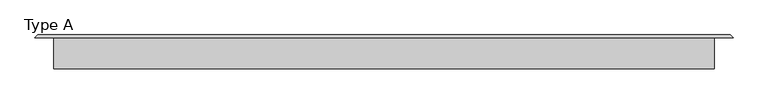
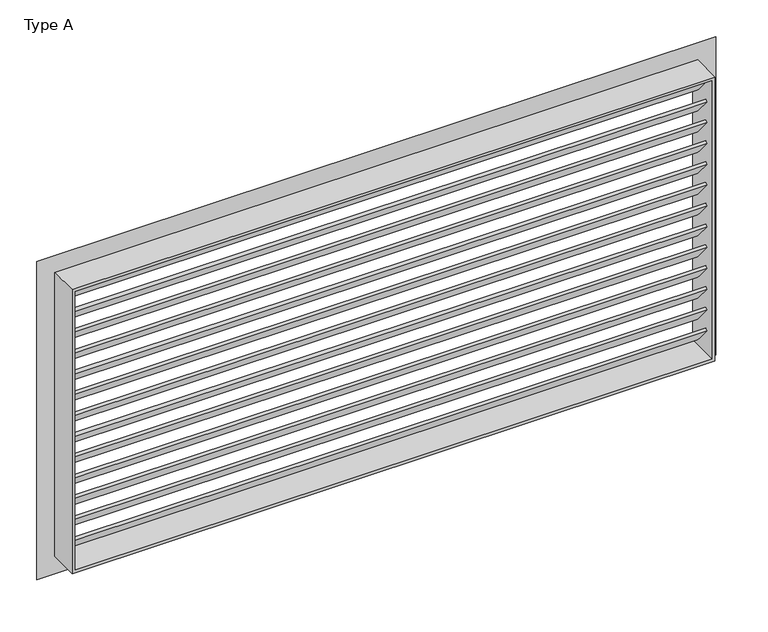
"""IFC4 building model written with IfcOpenShell, lengths in millimetres: proxy geometry, Grille d'aération - Mur : Type A."""

from ifc_helpers import new_model, si_unit, frame, origin, place, context, project, spatial, polyline, outline, extrude, faceted_brep, source, transform, mapped, element, save


def type_a_962f2aec(model_context):
    return source(origin(), model_context, "Body", "SolidModel", [
        extrude(outline(polyline([(0.0, -5.0), (0.0, 0.0), (1060.0, 0.0), (1060.0, -5.0), (0.0, -5.0)])), frame((655.0, 10.0, 2221.6666667), z_axis=(0.0, -0.6427876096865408, 0.7660444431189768), x_axis=(-1.0, 0.0, 0.0)), (0.0, 0.0, 1.0), 40.0),
        extrude(outline(polyline([(0.0, -5.0), (0.0, 0.0), (1060.0, 0.0), (1060.0, -5.0), (0.0, -5.0)])), frame((655.0, 10.0, 2258.3333333), z_axis=(0.0, -0.6427876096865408, 0.7660444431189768), x_axis=(-1.0, 0.0, 0.0)), (0.0, 0.0, 1.0), 40.0),
        extrude(outline(polyline([(0.0, -5.0), (0.0, 0.0), (1060.0, 0.0), (1060.0, -5.0), (0.0, -5.0)])), frame((655.0, 10.0, 2295.0), z_axis=(0.0, -0.6427876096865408, 0.7660444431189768), x_axis=(-1.0, 0.0, 0.0)), (0.0, 0.0, 1.0), 40.0),
        extrude(outline(polyline([(0.0, -5.0), (0.0, 0.0), (1060.0, 0.0), (1060.0, -5.0), (0.0, -5.0)])), frame((655.0, 10.0, 2331.6666667), z_axis=(0.0, -0.6427876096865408, 0.7660444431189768), x_axis=(-1.0, 0.0, 0.0)), (0.0, 0.0, 1.0), 40.0),
        extrude(outline(polyline([(0.0, -5.0), (0.0, 0.0), (1060.0, 0.0), (1060.0, -5.0), (0.0, -5.0)])), frame((655.0, 10.0, 2368.3333333), z_axis=(0.0, -0.6427876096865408, 0.7660444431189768), x_axis=(-1.0, 0.0, 0.0)), (0.0, 0.0, 1.0), 40.0),
        extrude(outline(polyline([(0.0, -5.0), (0.0, 0.0), (1060.0, 0.0), (1060.0, -5.0), (0.0, -5.0)])), frame((655.0, 10.0, 2405.0), z_axis=(0.0, -0.6427876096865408, 0.7660444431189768), x_axis=(-1.0, 0.0, 0.0)), (0.0, 0.0, 1.0), 40.0),
        extrude(outline(polyline([(0.0, -5.0), (0.0, 0.0), (1060.0, 0.0), (1060.0, -5.0), (0.0, -5.0)])), frame((655.0, 10.0, 2441.6666667), z_axis=(0.0, -0.6427876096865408, 0.7660444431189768), x_axis=(-1.0, 0.0, 0.0)), (0.0, 0.0, 1.0), 40.0),
        extrude(outline(polyline([(0.0, -5.0), (0.0, 0.0), (1060.0, 0.0), (1060.0, -5.0), (0.0, -5.0)])), frame((655.0, 10.0, 2478.3333333), z_axis=(0.0, -0.6427876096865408, 0.7660444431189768), x_axis=(-1.0, 0.0, 0.0)), (0.0, 0.0, 1.0), 40.0),
        extrude(outline(polyline([(0.0, -5.0), (0.0, 0.0), (1060.0, 0.0), (1060.0, -5.0), (0.0, -5.0)])), frame((655.0, 10.0, 2515.0), z_axis=(0.0, -0.6427876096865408, 0.7660444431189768), x_axis=(-1.0, 0.0, 0.0)), (0.0, 0.0, 1.0), 40.0),
        extrude(outline(polyline([(0.0, -5.0), (0.0, 0.0), (1060.0, 0.0), (1060.0, -5.0), (0.0, -5.0)])), frame((655.0, 10.0, 2551.6666667), z_axis=(0.0, -0.6427876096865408, 0.7660444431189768), x_axis=(-1.0, 0.0, 0.0)), (0.0, 0.0, 1.0), 40.0),
        extrude(outline(polyline([(0.0, -5.0), (0.0, 0.0), (1060.0, 0.0), (1060.0, -5.0), (0.0, -5.0)])), frame((655.0, 10.0, 2588.3333333), z_axis=(0.0, -0.6427876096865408, 0.7660444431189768), x_axis=(-1.0, 0.0, 0.0)), (0.0, 0.0, 1.0), 40.0),
        extrude(outline(polyline([(0.0, -5.0), (0.0, 0.0), (1060.0, 0.0), (1060.0, -5.0), (0.0, -5.0)])), frame((655.0, 10.0, 2185.0), z_axis=(0.0, -0.6427876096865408, 0.7660444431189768), x_axis=(-1.0, 0.0, 0.0)), (0.0, 0.0, 1.0), 40.0),
        extrude(outline(polyline([(0.0, -5.0), (0.0, 0.0), (1060.0, 0.0), (1060.0, -5.0), (0.0, -5.0)])), frame((655.0, 10.0, 2625.0), z_axis=(0.0, -0.6427876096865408, 0.7660444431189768), x_axis=(-1.0, 0.0, 0.0)), (0.0, 0.0, 1.0), 40.0),
        faceted_brep([(-410.0, -30.0, 2670.0), (-410.0, 20.0, 2670.0), (-410.0, 20.0, 2170.0), (-410.0, -30.0, 2170.0), (-405.0, 25.0, 2665.0), (-405.0, -30.0, 2665.0), (-405.0, -30.0, 2175.0), (-405.0, 25.0, 2175.0), (-440.284753, 20.0, 2700.284753), (-435.284753, 25.0, 2695.284753), (-435.284753, 25.0, 2144.715247), (-440.284753, 20.0, 2139.715247), (660.0, 20.0, 2170.0), (660.0, -30.0, 2170.0), (655.0, -30.0, 2175.0), (655.0, 25.0, 2175.0), (685.284753, 25.0, 2144.715247), (690.284753, 20.0, 2139.715247), (660.0, 20.0, 2670.0), (660.0, -30.0, 2670.0), (655.0, -30.0, 2665.0), (655.0, 25.0, 2665.0), (685.284753, 25.0, 2695.284753), (690.284753, 20.0, 2700.284753)], [[[0, 1, 2, 3]], [[4, 5, 6, 7]], [[8, 9, 10, 11]], [[3, 2, 12, 13]], [[7, 6, 14, 15]], [[11, 10, 16, 17]], [[13, 12, 18, 19]], [[15, 14, 20, 21]], [[17, 16, 22, 23]], [[19, 18, 1, 0]], [[3, 13, 19, 0], [5, 20, 14, 6]], [[21, 20, 5, 4]], [[9, 22, 16, 10], [7, 15, 21, 4]], [[23, 22, 9, 8]], [[11, 17, 23, 8], [1, 18, 12, 2]]]),
    ])


if __name__ == "__main__":
    model = new_model("IFC4")
    model_context = context("Model", 3, world=origin())
    ifc_project = project(units=[si_unit("LENGTHUNIT", "METRE", prefix="MILLI")], contexts=[model_context])
    site = spatial("IfcSite", under=ifc_project)
    building = spatial("IfcBuilding", under=site)
    placement = place(None, origin())
    type_a_shape = type_a_962f2aec(model_context)
    element("IfcBuildingElementProxy", 1, Name="Grille d'aération - Mur : Type A", ObjectType="Grille d'aération - Mur : Type A", at=placement, inside=building, context=model_context, shape_type="MappedRepresentation", body=[
        mapped(type_a_shape, transform((0.0, 0.0, 0.0), x_axis=(1.0, 0.0, 0.0), y_axis=(0.0, 1.0, 0.0), z_axis=(0.0, 0.0, 1.0))),
    ])
    save(model, "model.ifc")
